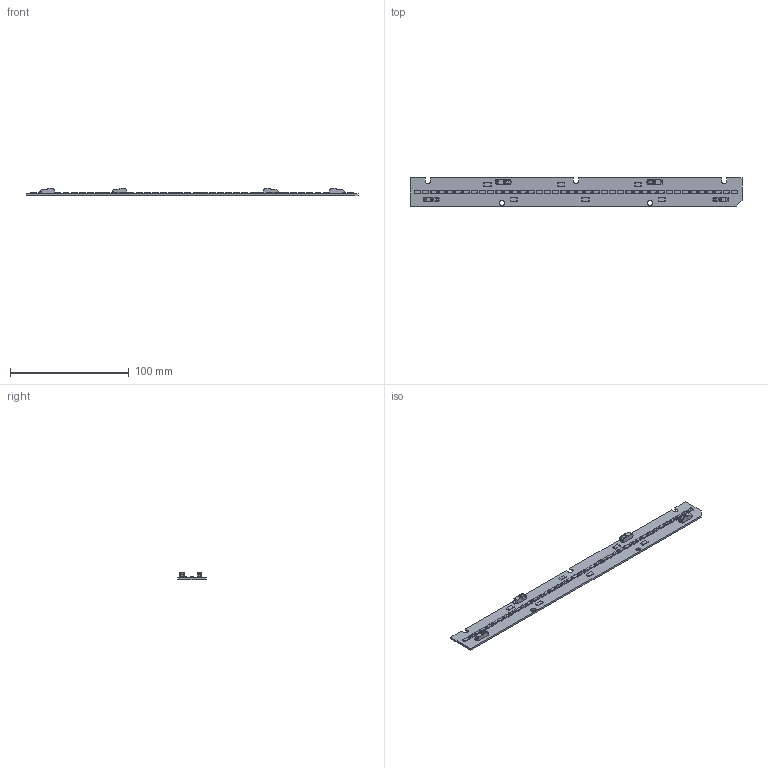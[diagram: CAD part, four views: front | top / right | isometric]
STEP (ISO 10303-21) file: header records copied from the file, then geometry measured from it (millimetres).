
FILE_DESCRIPTION (( 'STEP AP203' ), '1' );
FILE_NAME ('led_module 75740b.STEP', '2016-05-20T07:55:00', ( '' ), ( '' ), 'SwSTEP 2.0', 'SolidWorks 2014', '' );
FILE_SCHEMA (( 'CONFIG_CONTROL_DESIGN' ));
Length unit declared in the file: millimetre
Products named in the file (5): 757408; 7800175; LM561B; hyppyvastus; led_module 75740b
Assembly tree (51 placements, depth 2):
  led_module 75740b
    757408
    7800175  x4
    LM561B  x40
    hyppyvastus  x6
Bounding box: 279.8 x 23.8 x 5.95 mm (x, y, z)
Volume: 11864.1 mm3; surface area: 18984.3 mm2
Topology: 291 solids, 291 shells, 2847 faces, 6751 edges, 4498 vertices
Faces by surface type: plane 2240, cylinder 443, cone 160, bspline 4
Entity records: 8162 total; most frequent: CARTESIAN_POINT 1227, DIRECTION 1097, ORIENTED_EDGE 1046, EDGE_CURVE 523, VECTOR 413, LINE 413, VERTEX_POINT 348, AXIS2_PLACEMENT_3D 342
